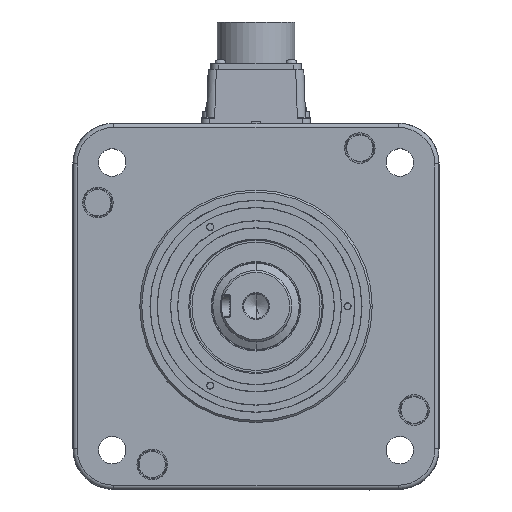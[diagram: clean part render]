
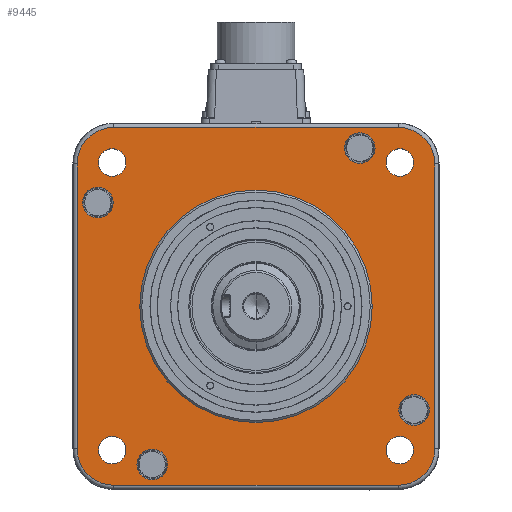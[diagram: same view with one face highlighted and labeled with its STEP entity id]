
A CAD part, top view. The second image highlights one B-rep face of the part: STEP entity #9445.
In plain terms, the highlighted planar face has unit normal (0, 0, 1).
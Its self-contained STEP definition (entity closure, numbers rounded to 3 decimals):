
#668=CARTESIAN_POINT('',(-69.969,69.969,73.8));
#669=DIRECTION('',(0.,0.,-1.));
#670=DIRECTION('',(-1.,0.,0.));
#671=AXIS2_PLACEMENT_3D('',#668,#669,#670);
#673=CARTESIAN_POINT('',(69.969,69.969,73.8));
#674=DIRECTION('',(0.,0.,-1.));
#675=DIRECTION('',(0.,1.,0.));
#676=AXIS2_PLACEMENT_3D('',#673,#674,#675);
#678=CARTESIAN_POINT('',(69.969,-69.969,73.8));
#679=DIRECTION('',(0.,0.,-1.));
#680=DIRECTION('',(1.,0.,0.));
#681=AXIS2_PLACEMENT_3D('',#678,#679,#680);
#683=CARTESIAN_POINT('',(-69.969,-69.969,73.8));
#684=DIRECTION('',(0.,0.,-1.));
#685=DIRECTION('',(0.,-1.,0.));
#686=AXIS2_PLACEMENT_3D('',#683,#684,#685);
#688=CARTESIAN_POINT('',(0.,0.,73.8));
#689=DIRECTION('',(0.,0.,1.));
#690=DIRECTION('',(-1.,0.,0.));
#691=AXIS2_PLACEMENT_3D('',#688,#689,#690);
#693=CARTESIAN_POINT('',(0.,0.,73.8));
#694=DIRECTION('',(0.,0.,1.));
#695=DIRECTION('',(1.,0.,0.));
#696=AXIS2_PLACEMENT_3D('',#693,#694,#695);
#698=CARTESIAN_POINT('',(-70.711,70.711,73.8));
#699=DIRECTION('',(0.,0.,1.));
#700=DIRECTION('',(1.,0.,0.));
#701=AXIS2_PLACEMENT_3D('',#698,#699,#700);
#703=CARTESIAN_POINT('',(-70.711,70.711,73.8));
#704=DIRECTION('',(0.,0.,1.));
#705=DIRECTION('',(-1.,0.,0.));
#706=AXIS2_PLACEMENT_3D('',#703,#704,#705);
#708=CARTESIAN_POINT('',(70.711,70.711,73.8));
#709=DIRECTION('',(0.,0.,1.));
#710=DIRECTION('',(1.,0.,0.));
#711=AXIS2_PLACEMENT_3D('',#708,#709,#710);
#713=CARTESIAN_POINT('',(70.711,70.711,73.8));
#714=DIRECTION('',(0.,0.,1.));
#715=DIRECTION('',(-1.,0.,0.));
#716=AXIS2_PLACEMENT_3D('',#713,#714,#715);
#718=CARTESIAN_POINT('',(70.711,-70.711,73.8));
#719=DIRECTION('',(0.,0.,1.));
#720=DIRECTION('',(1.,0.,0.));
#721=AXIS2_PLACEMENT_3D('',#718,#719,#720);
#723=CARTESIAN_POINT('',(70.711,-70.711,73.8));
#724=DIRECTION('',(0.,0.,1.));
#725=DIRECTION('',(-1.,0.,0.));
#726=AXIS2_PLACEMENT_3D('',#723,#724,#725);
#728=CARTESIAN_POINT('',(-70.711,-70.711,73.8));
#729=DIRECTION('',(0.,0.,1.));
#730=DIRECTION('',(1.,0.,0.));
#731=AXIS2_PLACEMENT_3D('',#728,#729,#730);
#733=CARTESIAN_POINT('',(-70.711,-70.711,73.8));
#734=DIRECTION('',(0.,0.,1.));
#735=DIRECTION('',(-1.,0.,0.));
#736=AXIS2_PLACEMENT_3D('',#733,#734,#735);
#738=CARTESIAN_POINT('',(51.,77.769,73.8));
#739=DIRECTION('',(0.,0.,1.));
#740=DIRECTION('',(1.,0.,0.));
#741=AXIS2_PLACEMENT_3D('',#738,#739,#740);
#743=CARTESIAN_POINT('',(51.,77.769,73.8));
#744=DIRECTION('',(0.,0.,1.));
#745=DIRECTION('',(-1.,0.,0.));
#746=AXIS2_PLACEMENT_3D('',#743,#744,#745);
#748=CARTESIAN_POINT('',(-77.769,51.,73.8));
#749=DIRECTION('',(0.,0.,1.));
#750=DIRECTION('',(1.,0.,0.));
#751=AXIS2_PLACEMENT_3D('',#748,#749,#750);
#753=CARTESIAN_POINT('',(-77.769,51.,73.8));
#754=DIRECTION('',(0.,0.,1.));
#755=DIRECTION('',(-1.,0.,0.));
#756=AXIS2_PLACEMENT_3D('',#753,#754,#755);
#758=CARTESIAN_POINT('',(-51.,-77.769,73.8));
#759=DIRECTION('',(0.,0.,1.));
#760=DIRECTION('',(1.,0.,0.));
#761=AXIS2_PLACEMENT_3D('',#758,#759,#760);
#763=CARTESIAN_POINT('',(-51.,-77.769,73.8));
#764=DIRECTION('',(0.,0.,1.));
#765=DIRECTION('',(-1.,0.,0.));
#766=AXIS2_PLACEMENT_3D('',#763,#764,#765);
#768=CARTESIAN_POINT('',(77.769,-51.,73.8));
#769=DIRECTION('',(0.,0.,1.));
#770=DIRECTION('',(1.,0.,0.));
#771=AXIS2_PLACEMENT_3D('',#768,#769,#770);
#773=CARTESIAN_POINT('',(77.769,-51.,73.8));
#774=DIRECTION('',(0.,0.,1.));
#775=DIRECTION('',(-1.,0.,0.));
#776=AXIS2_PLACEMENT_3D('',#773,#774,#775);
#778=DIRECTION('',(0.,-1.,0.));
#779=VECTOR('',#778,139.937);
#780=CARTESIAN_POINT('',(-87.969,69.969,73.8));
#781=LINE('',#780,#779);
#1078=DIRECTION('',(0.,1.,0.));
#1079=VECTOR('',#1078,139.937);
#1080=CARTESIAN_POINT('',(87.969,-69.969,73.8));
#1081=LINE('',#1080,#1079);
#1125=DIRECTION('',(1.,0.,0.));
#1126=VECTOR('',#1125,139.937);
#1127=CARTESIAN_POINT('',(-69.969,-87.969,
73.8));
#1128=LINE('',#1127,#1126);
#1143=DIRECTION('',(-1.,0.,0.));
#1144=VECTOR('',#1143,139.937);
#1145=CARTESIAN_POINT('',(69.969,87.969,73.8));
#1146=LINE('',#1145,#1144);
#6889=CARTESIAN_POINT('',(57.15,0.,73.8));
#6890=VERTEX_POINT('',#6889);
#6891=CARTESIAN_POINT('',(-57.15,0.,73.8));
#6892=VERTEX_POINT('',#6891);
#6893=CARTESIAN_POINT('',(-87.969,69.969,73.8));
#6894=CARTESIAN_POINT('',(-69.969,87.969,73.8));
#6895=VERTEX_POINT('',#6893);
#6896=VERTEX_POINT('',#6894);
#6897=CARTESIAN_POINT('',(69.969,87.969,73.8));
#6898=CARTESIAN_POINT('',(87.969,69.969,73.8));
#6899=VERTEX_POINT('',#6897);
#6900=VERTEX_POINT('',#6898);
#6901=CARTESIAN_POINT('',(87.969,-69.969,73.8));
#6902=CARTESIAN_POINT('',(69.969,-87.969,73.8));
#6903=VERTEX_POINT('',#6901);
#6904=VERTEX_POINT('',#6902);
#6905=CARTESIAN_POINT('',(-69.969,-87.969,
73.8));
#6906=CARTESIAN_POINT('',(-87.969,-69.969,
73.8));
#6907=VERTEX_POINT('',#6905);
#6908=VERTEX_POINT('',#6906);
#6909=CARTESIAN_POINT('',(-63.961,70.711,73.8));
#6910=CARTESIAN_POINT('',(-77.461,70.711,73.8));
#6911=VERTEX_POINT('',#6909);
#6912=VERTEX_POINT('',#6910);
#6913=CARTESIAN_POINT('',(77.461,70.711,73.8));
#6914=CARTESIAN_POINT('',(63.961,70.711,73.8));
#6915=VERTEX_POINT('',#6913);
#6916=VERTEX_POINT('',#6914);
#6917=CARTESIAN_POINT('',(77.461,-70.711,73.8));
#6918=CARTESIAN_POINT('',(63.961,-70.711,73.8));
#6919=VERTEX_POINT('',#6917);
#6920=VERTEX_POINT('',#6918);
#6921=CARTESIAN_POINT('',(-63.961,-70.711,73.8));
#6922=CARTESIAN_POINT('',(-77.461,-70.711,73.8));
#6923=VERTEX_POINT('',#6921);
#6924=VERTEX_POINT('',#6922);
#6925=CARTESIAN_POINT('',(58.524,77.769,73.8));
#6926=CARTESIAN_POINT('',(43.476,77.769,73.8));
#6927=VERTEX_POINT('',#6925);
#6928=VERTEX_POINT('',#6926);
#6929=CARTESIAN_POINT('',(-70.245,51.,73.8));
#6930=CARTESIAN_POINT('',(-85.293,51.,73.8));
#6931=VERTEX_POINT('',#6929);
#6932=VERTEX_POINT('',#6930);
#6933=CARTESIAN_POINT('',(-43.476,-77.769,73.8));
#6934=CARTESIAN_POINT('',(-58.524,-77.769,73.8));
#6935=VERTEX_POINT('',#6933);
#6936=VERTEX_POINT('',#6934);
#6937=CARTESIAN_POINT('',(85.293,-51.,73.8));
#6938=CARTESIAN_POINT('',(70.245,-51.,73.8));
#6939=VERTEX_POINT('',#6937);
#6940=VERTEX_POINT('',#6938);
#9370=CARTESIAN_POINT('',(0.,0.,73.8));
#9371=DIRECTION('',(0.,0.,1.));
#9372=DIRECTION('',(-1.,0.,0.));
#9373=AXIS2_PLACEMENT_3D('',#9370,#9371,#9372);
#9374=PLANE('',#9373);
#9376=ORIENTED_EDGE('',*,*,#9375,.F.);
#9378=ORIENTED_EDGE('',*,*,#9377,.T.);
#9380=ORIENTED_EDGE('',*,*,#9379,.F.);
#9382=ORIENTED_EDGE('',*,*,#9381,.T.);
#9384=ORIENTED_EDGE('',*,*,#9383,.F.);
#9386=ORIENTED_EDGE('',*,*,#9385,.T.);
#9388=ORIENTED_EDGE('',*,*,#9387,.F.);
#9390=ORIENTED_EDGE('',*,*,#9389,.T.);
#9391=EDGE_LOOP('',(#9376,#9378,#9380,#9382,#9384,#9386,#9388,#9390));
#9392=FACE_OUTER_BOUND('',#9391,.F.);
#9393=ORIENTED_EDGE('',*,*,#9362,.T.);
#9394=ORIENTED_EDGE('',*,*,#9351,.T.);
#9395=EDGE_LOOP('',(#9393,#9394));
#9396=FACE_BOUND('',#9395,.F.);
#9398=ORIENTED_EDGE('',*,*,#9397,.T.);
#9400=ORIENTED_EDGE('',*,*,#9399,.T.);
#9401=EDGE_LOOP('',(#9398,#9400));
#9402=FACE_BOUND('',#9401,.F.);
#9404=ORIENTED_EDGE('',*,*,#9403,.T.);
#9406=ORIENTED_EDGE('',*,*,#9405,.T.);
#9407=EDGE_LOOP('',(#9404,#9406));
#9408=FACE_BOUND('',#9407,.F.);
#9410=ORIENTED_EDGE('',*,*,#9409,.T.);
#9412=ORIENTED_EDGE('',*,*,#9411,.T.);
#9413=EDGE_LOOP('',(#9410,#9412));
#9414=FACE_BOUND('',#9413,.F.);
#9416=ORIENTED_EDGE('',*,*,#9415,.T.);
#9418=ORIENTED_EDGE('',*,*,#9417,.T.);
#9419=EDGE_LOOP('',(#9416,#9418));
#9420=FACE_BOUND('',#9419,.F.);
#9422=ORIENTED_EDGE('',*,*,#9421,.T.);
#9424=ORIENTED_EDGE('',*,*,#9423,.T.);
#9425=EDGE_LOOP('',(#9422,#9424));
#9426=FACE_BOUND('',#9425,.F.);
#9428=ORIENTED_EDGE('',*,*,#9427,.T.);
#9430=ORIENTED_EDGE('',*,*,#9429,.T.);
#9431=EDGE_LOOP('',(#9428,#9430));
#9432=FACE_BOUND('',#9431,.F.);
#9434=ORIENTED_EDGE('',*,*,#9433,.T.);
#9436=ORIENTED_EDGE('',*,*,#9435,.T.);
#9437=EDGE_LOOP('',(#9434,#9436));
#9438=FACE_BOUND('',#9437,.F.);
#9440=ORIENTED_EDGE('',*,*,#9439,.T.);
#9442=ORIENTED_EDGE('',*,*,#9441,.T.);
#9443=EDGE_LOOP('',(#9440,#9442));
#9444=FACE_BOUND('',#9443,.F.);
#672=CIRCLE('',#671,18.);
#677=CIRCLE('',#676,18.);
#682=CIRCLE('',#681,18.);
#687=CIRCLE('',#686,18.);
#692=CIRCLE('',#691,57.15);
#697=CIRCLE('',#696,57.15);
#702=CIRCLE('',#701,6.75);
#707=CIRCLE('',#706,6.75);
#712=CIRCLE('',#711,6.75);
#717=CIRCLE('',#716,6.75);
#722=CIRCLE('',#721,6.75);
#727=CIRCLE('',#726,6.75);
#732=CIRCLE('',#731,6.75);
#737=CIRCLE('',#736,6.75);
#742=CIRCLE('',#741,7.524);
#747=CIRCLE('',#746,7.524);
#752=CIRCLE('',#751,7.524);
#757=CIRCLE('',#756,7.524);
#762=CIRCLE('',#761,7.524);
#767=CIRCLE('',#766,7.524);
#772=CIRCLE('',#771,7.524);
#777=CIRCLE('',#776,7.524);
#9351=EDGE_CURVE('',#6890,#6892,#697,.T.);
#9362=EDGE_CURVE('',#6892,#6890,#692,.T.);
#9375=EDGE_CURVE('',#6895,#6908,#781,.T.);
#9377=EDGE_CURVE('',#6895,#6896,#672,.T.);
#9379=EDGE_CURVE('',#6899,#6896,#1146,.T.);
#9381=EDGE_CURVE('',#6899,#6900,#677,.T.);
#9383=EDGE_CURVE('',#6903,#6900,#1081,.T.);
#9385=EDGE_CURVE('',#6903,#6904,#682,.T.);
#9387=EDGE_CURVE('',#6907,#6904,#1128,.T.);
#9389=EDGE_CURVE('',#6907,#6908,#687,.T.);
#9397=EDGE_CURVE('',#6911,#6912,#702,.T.);
#9399=EDGE_CURVE('',#6912,#6911,#707,.T.);
#9403=EDGE_CURVE('',#6915,#6916,#712,.T.);
#9405=EDGE_CURVE('',#6916,#6915,#717,.T.);
#9409=EDGE_CURVE('',#6919,#6920,#722,.T.);
#9411=EDGE_CURVE('',#6920,#6919,#727,.T.);
#9415=EDGE_CURVE('',#6923,#6924,#732,.T.);
#9417=EDGE_CURVE('',#6924,#6923,#737,.T.);
#9421=EDGE_CURVE('',#6927,#6928,#742,.T.);
#9423=EDGE_CURVE('',#6928,#6927,#747,.T.);
#9427=EDGE_CURVE('',#6931,#6932,#752,.T.);
#9429=EDGE_CURVE('',#6932,#6931,#757,.T.);
#9433=EDGE_CURVE('',#6935,#6936,#762,.T.);
#9435=EDGE_CURVE('',#6936,#6935,#767,.T.);
#9439=EDGE_CURVE('',#6939,#6940,#772,.T.);
#9441=EDGE_CURVE('',#6940,#6939,#777,.T.);
#9445=ADVANCED_FACE('',(#9392,#9396,#9402,#9408,#9414,#9420,#9426,#9432,#9438,
#9444),#9374,.T.);
